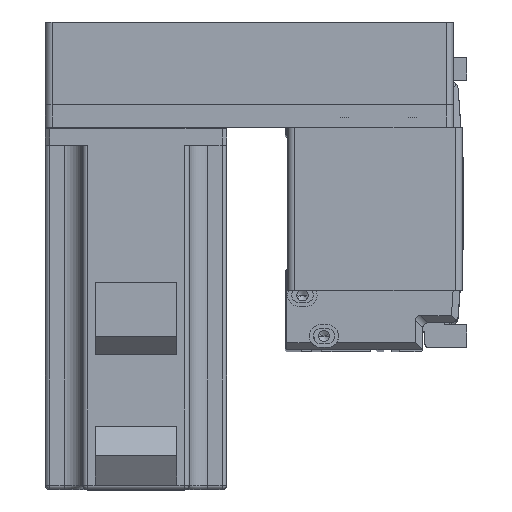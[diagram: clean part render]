
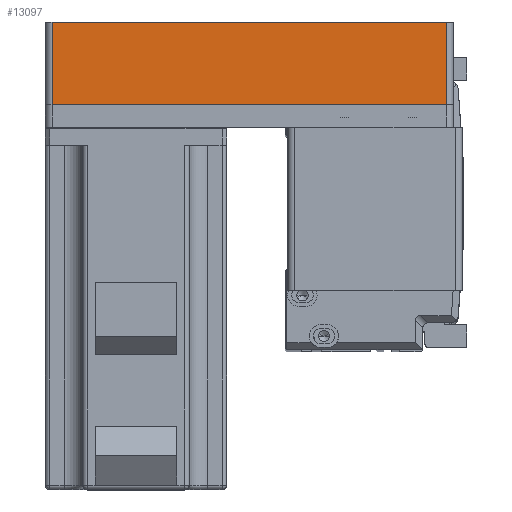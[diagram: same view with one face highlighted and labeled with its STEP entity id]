
A CAD part, top view. The second image highlights one B-rep face of the part: STEP entity #13097.
In plain terms, the highlighted planar face has unit normal (0, 0, 1) as drawn and (0, 1, 0) by its records, which use the part's own axes.
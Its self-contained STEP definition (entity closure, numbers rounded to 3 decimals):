
#392 = ORIENTED_EDGE ( 'NONE', *, *, #29797, .T. ) ;
#3955 = VECTOR ( 'NONE', #43066, 1000. ) ;
#4516 = VECTOR ( 'NONE', #12629, 1000. ) ;
#11015 = LINE ( 'NONE', #23299, #37721 ) ;
#12629 = DIRECTION ( 'NONE',  ( 0., 0., 1. ) ) ;
#12716 = EDGE_CURVE ( 'NONE', #21260, #36137, #22910, .T. ) ;
#12970 = VERTEX_POINT ( 'NONE', #24263 ) ;
#12992 = DIRECTION ( 'NONE',  ( 0., 0., -1. ) ) ;
#13097 = ADVANCED_FACE ( 'NONE', ( #15838 ), #28537, .F. ) ;
#15020 = DIRECTION ( 'NONE',  ( -1., 0., 0. ) ) ;
#15838 = FACE_OUTER_BOUND ( 'NONE', #24119, .T. ) ;
#18769 = AXIS2_PLACEMENT_3D ( 'NONE', #35561, #42516, #21725 ) ;
#18869 = CARTESIAN_POINT ( 'NONE',  ( -87., 40., 36.5 ) ) ;
#20222 = EDGE_CURVE ( 'NONE', #12970, #24226, #11015, .T. ) ;
#21260 = VERTEX_POINT ( 'NONE', #26859 ) ;
#21725 = DIRECTION ( 'NONE',  ( 1., 0., 0. ) ) ;
#22910 = LINE ( 'NONE', #29927, #4516 ) ;
#23299 = CARTESIAN_POINT ( 'NONE',  ( 87., 40., 36.5 ) ) ;
#24119 = EDGE_LOOP ( 'NONE', ( #392, #33110, #43099, #37191 ) ) ;
#24226 = VERTEX_POINT ( 'NONE', #32372 ) ;
#24263 = CARTESIAN_POINT ( 'NONE',  ( 87., 40., 36.5 ) ) ;
#26859 = CARTESIAN_POINT ( 'NONE',  ( -87., 40., 0. ) ) ;
#28537 = PLANE ( 'NONE',  #18769 ) ;
#29797 = EDGE_CURVE ( 'NONE', #24226, #21260, #32824, .T. ) ;
#29927 = CARTESIAN_POINT ( 'NONE',  ( -87., 40., 36.5 ) ) ;
#32372 = CARTESIAN_POINT ( 'NONE',  ( 87., 40., 0. ) ) ;
#32824 = LINE ( 'NONE', #39359, #42071 ) ;
#33110 = ORIENTED_EDGE ( 'NONE', *, *, #12716, .T. ) ;
#35561 = CARTESIAN_POINT ( 'NONE',  ( 90., 40., 36.5 ) ) ;
#36137 = VERTEX_POINT ( 'NONE', #18869 ) ;
#36276 = CARTESIAN_POINT ( 'NONE',  ( 90., 40., 36.5 ) ) ;
#37191 = ORIENTED_EDGE ( 'NONE', *, *, #20222, .T. ) ;
#37721 = VECTOR ( 'NONE', #12992, 1000. ) ;
#39064 = EDGE_CURVE ( 'NONE', #12970, #36137, #40863, .T. ) ;
#39359 = CARTESIAN_POINT ( 'NONE',  ( 90., 40., 0. ) ) ;
#40863 = LINE ( 'NONE', #36276, #3955 ) ;
#42071 = VECTOR ( 'NONE', #15020, 1000. ) ;
#42516 = DIRECTION ( 'NONE',  ( 0., -1., 0. ) ) ;
#43066 = DIRECTION ( 'NONE',  ( -1., 0., 0. ) ) ;
#43099 = ORIENTED_EDGE ( 'NONE', *, *, #39064, .F. ) ;
